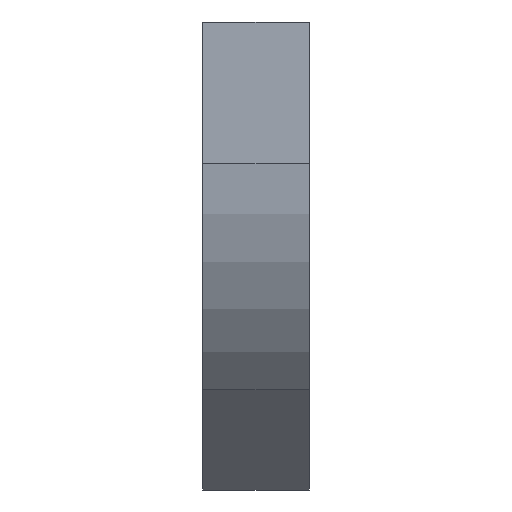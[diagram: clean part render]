
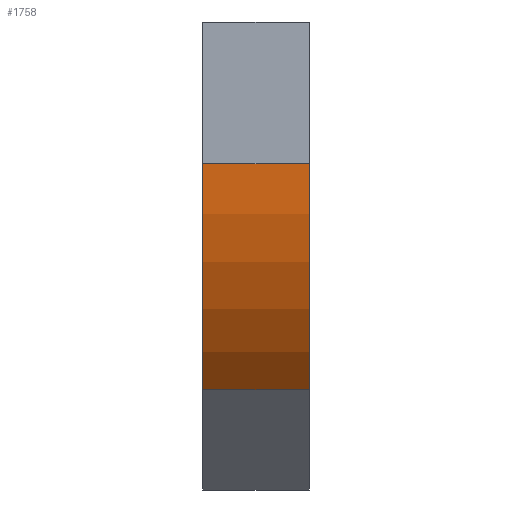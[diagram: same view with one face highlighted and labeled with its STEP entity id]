
A CAD part, left-side view. The second image highlights one B-rep face of the part: STEP entity #1758.
In plain terms, the highlighted cylindrical face has radius 300 mm (diameter 600 mm), a partial arc.
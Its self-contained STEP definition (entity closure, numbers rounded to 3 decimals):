
#3 = CARTESIAN_POINT ( 'NONE',  ( 0., 100., -132.843 ) ) ;
#100 = VECTOR ( 'NONE', #1004, 1000. ) ;
#153 = EDGE_CURVE ( 'NONE', #480, #1787, #332, .T. ) ;
#180 = AXIS2_PLACEMENT_3D ( 'NONE', #1805, #530, #1093 ) ;
#332 = CIRCLE ( 'NONE', #180, 300. ) ;
#362 = LINE ( 'NONE', #925, #526 ) ;
#432 = DIRECTION ( 'NONE',  ( 0., -1., 0. ) ) ;
#451 = CARTESIAN_POINT ( 'NONE',  ( 87.868, 0., -344.975 ) ) ;
#480 = VERTEX_POINT ( 'NONE', #770 ) ;
#526 = VECTOR ( 'NONE', #540, 1000. ) ;
#530 = DIRECTION ( 'NONE',  ( 0., -1., 0. ) ) ;
#540 = DIRECTION ( 'NONE',  ( 0., -1., 0. ) ) ;
#587 = CARTESIAN_POINT ( 'NONE',  ( 300., 0., -132.843 ) ) ;
#673 = AXIS2_PLACEMENT_3D ( 'NONE', #587, #874, #1716 ) ;
#730 = LINE ( 'NONE', #451, #100 ) ;
#764 = ORIENTED_EDGE ( 'NONE', *, *, #1179, .T. ) ;
#770 = CARTESIAN_POINT ( 'NONE',  ( 0., 0., -132.843 ) ) ;
#786 = ORIENTED_EDGE ( 'NONE', *, *, #1564, .F. ) ;
#874 = DIRECTION ( 'NONE',  ( 0., -1., 0. ) ) ;
#911 = ORIENTED_EDGE ( 'NONE', *, *, #1692, .T. ) ;
#925 = CARTESIAN_POINT ( 'NONE',  ( 0., 0., -132.843 ) ) ;
#1004 = DIRECTION ( 'NONE',  ( 0., -1., 0. ) ) ;
#1093 = DIRECTION ( 'NONE',  ( -1., 0., 0. ) ) ;
#1118 = CARTESIAN_POINT ( 'NONE',  ( 300., 100., -132.843 ) ) ;
#1130 = DIRECTION ( 'NONE',  ( -1., 0., 0. ) ) ;
#1179 = EDGE_CURVE ( 'NONE', #1482, #1509, #1271, .T. ) ;
#1271 = CIRCLE ( 'NONE', #1330, 300. ) ;
#1297 = FACE_OUTER_BOUND ( 'NONE', #1777, .T. ) ;
#1330 = AXIS2_PLACEMENT_3D ( 'NONE', #1118, #432, #1130 ) ;
#1354 = ORIENTED_EDGE ( 'NONE', *, *, #153, .F. ) ;
#1482 = VERTEX_POINT ( 'NONE', #3 ) ;
#1509 = VERTEX_POINT ( 'NONE', #1741 ) ;
#1564 = EDGE_CURVE ( 'NONE', #1482, #480, #362, .T. ) ;
#1692 = EDGE_CURVE ( 'NONE', #1509, #1787, #730, .T. ) ;
#1699 = CARTESIAN_POINT ( 'NONE',  ( 87.868, 0., -344.975 ) ) ;
#1716 = DIRECTION ( 'NONE',  ( 0., 0., -1. ) ) ;
#1725 = CYLINDRICAL_SURFACE ( 'NONE', #673, 300. ) ;
#1741 = CARTESIAN_POINT ( 'NONE',  ( 87.868, 100., -344.975 ) ) ;
#1758 = ADVANCED_FACE ( 'NONE', ( #1297 ), #1725, .T. ) ;
#1777 = EDGE_LOOP ( 'NONE', ( #1354, #786, #764, #911 ) ) ;
#1787 = VERTEX_POINT ( 'NONE', #1699 ) ;
#1805 = CARTESIAN_POINT ( 'NONE',  ( 300., 0., -132.843 ) ) ;
